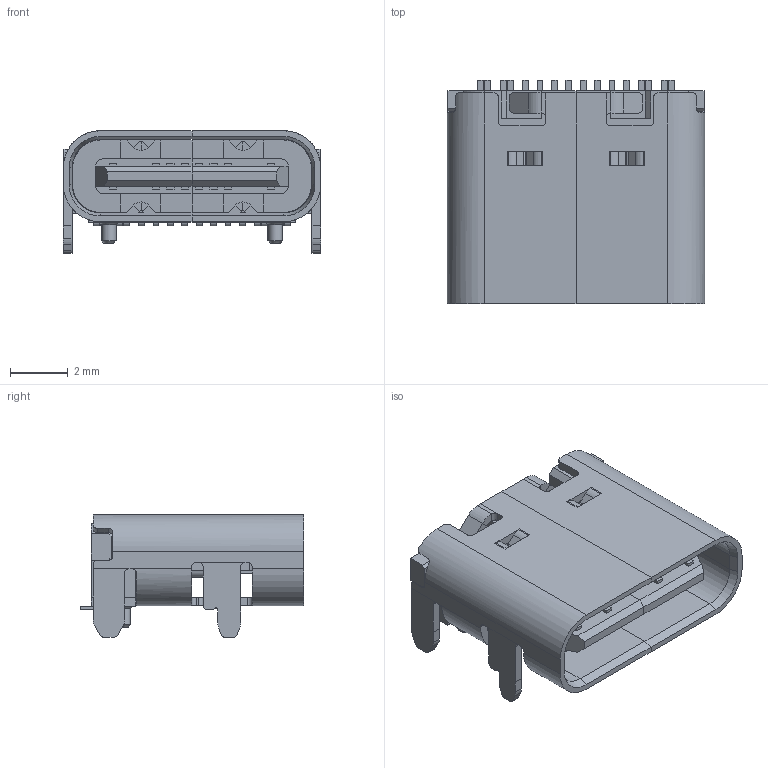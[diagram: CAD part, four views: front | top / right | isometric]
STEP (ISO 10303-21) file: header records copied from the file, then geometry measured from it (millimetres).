
FILE_DESCRIPTION (( 'STEP AP214' ), '1' );
FILE_NAME ('USB_C_Receptacle_GCT_USB4105-xx-A_16P_TopMnt_Horizontal_navX2-mxp-cad.step', '2025-12-23T16:04:50', ( '' ), ( '' ), 'SwSTEP 2.0', 'SolidWorks 2026', '' );
FILE_SCHEMA (( 'AUTOMOTIVE_DESIGN' ));
Length unit declared in the file: inch
Products named in the file (2): USB_C_Receptacle_GCT_USB4105-xx-A_16P_TopMnt_Horizontal_navX2-mxp-cad; COMPOUND_USB_C_Receptacle_GCT_USB4105-xx-A_16P_TopMnt_Horizontal_navX2-mxp-cad
Assembly tree (1 placements, depth 2):
  USB_C_Receptacle_GCT_USB4105-xx-A_16P_TopMnt_Horizontal_navX2-mxp-cad
    COMPOUND_USB_C_Receptacle_GCT_USB4105-xx-A_16P_TopMnt_Horizontal_navX2-mxp-cad
Bounding box: 8.94 x 7.78 x 4.26 mm (x, y, z)
Volume: 119.9 mm3; surface area: 535.5 mm2
Topology: 36 solids, 36 shells, 652 faces, 1592 edges, 1002 vertices
Faces by surface type: plane 498, cylinder 142, cone 12
Entity records: 19350 total; most frequent: CARTESIAN_POINT 3360, ORIENTED_EDGE 3184, DIRECTION 3182, EDGE_CURVE 1592, LINE 1286, VECTOR 1286, VERTEX_POINT 1002, AXIS2_PLACEMENT_3D 948
